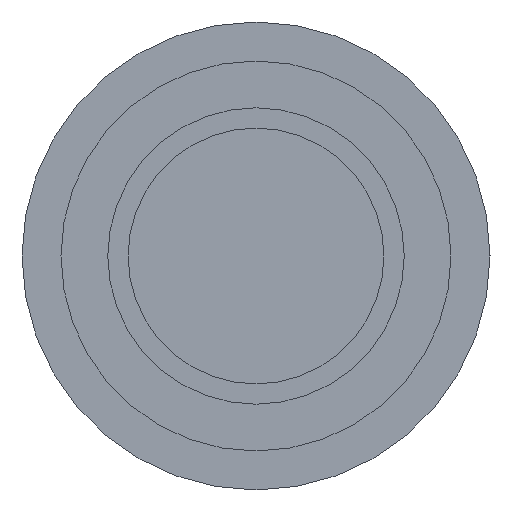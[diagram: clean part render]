
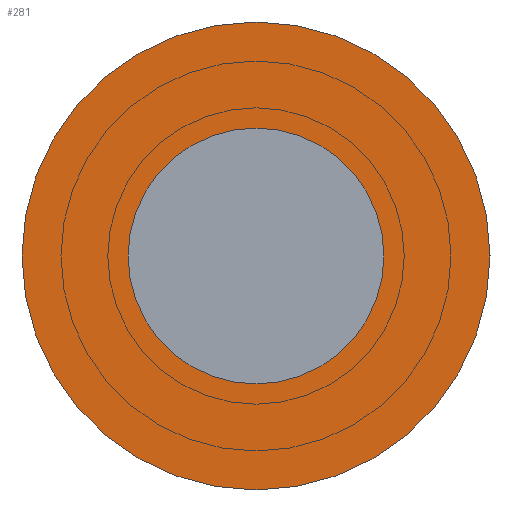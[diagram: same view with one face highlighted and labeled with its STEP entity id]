
A CAD part, left-side view. The second image highlights one B-rep face of the part: STEP entity #281.
In plain terms, the highlighted planar face has unit normal (-1, 0, 0).
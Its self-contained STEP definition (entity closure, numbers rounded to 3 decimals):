
#281 = ADVANCED_FACE( '', ( #407, #408 ), #409, .F. );
#407 = FACE_OUTER_BOUND( '', #552, .T. );
#408 = FACE_BOUND( '', #553, .T. );
#409 = PLANE( '', #554 );
#552 = EDGE_LOOP( '', ( #772 ) );
#553 = EDGE_LOOP( '', ( #773 ) );
#554 = AXIS2_PLACEMENT_3D( '', #774, #775, #776 );
#772 = ORIENTED_EDGE( '', *, *, #864, .F. );
#773 = ORIENTED_EDGE( '', *, *, #863, .T. );
#774 = CARTESIAN_POINT( '', ( -2., 8.2, 0. ) );
#775 = DIRECTION( '', ( 1., 0., 0. ) );
#776 = DIRECTION( '', ( 0., 0., -1. ) );
#863 = EDGE_CURVE( '', #947, #947, #948, .T. );
#864 = EDGE_CURVE( '', #949, #949, #950, .T. );
#947 = VERTEX_POINT( '', #1041 );
#948 = CIRCLE( '', #1042, 8.2 );
#949 = VERTEX_POINT( '', #1043 );
#950 = CIRCLE( '', #1044, 15. );
#1041 = CARTESIAN_POINT( '', ( -2., 0., -8.2 ) );
#1042 = AXIS2_PLACEMENT_3D( '', #1172, #1173, #1174 );
#1043 = CARTESIAN_POINT( '', ( -2., 0., -15. ) );
#1044 = AXIS2_PLACEMENT_3D( '', #1175, #1176, #1177 );
#1172 = CARTESIAN_POINT( '', ( -2., 0., 0. ) );
#1173 = DIRECTION( '', ( 1., 0., 0. ) );
#1174 = DIRECTION( '', ( 0., 0., -1. ) );
#1175 = CARTESIAN_POINT( '', ( -2., 0., 0. ) );
#1176 = DIRECTION( '', ( 1., 0., 0. ) );
#1177 = DIRECTION( '', ( 0., 0., -1. ) );
